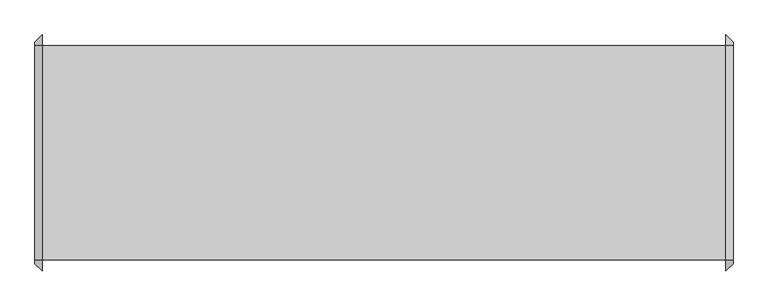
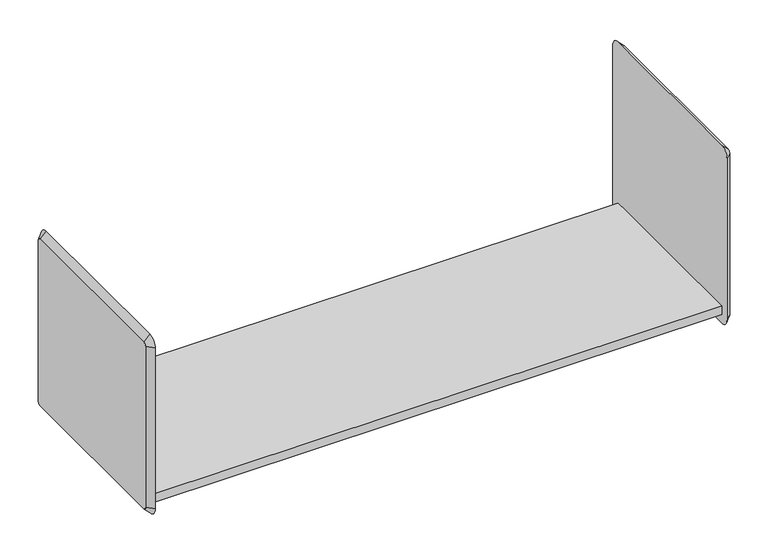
"""IFC4 building model written with IfcOpenShell, lengths in millimetres: furniture geometry, HermanMiller_ActionOffice_A3210_B-StyleShelf : 15-1/2H 16D 48W."""

from ifc_helpers import new_model, si_unit, frame, origin, place, context, project, spatial, polyline, circle_curve, outline, extrude, source, transform, mapped, element, save
from ifc_brep_helpers import plane_surface, revolved_surface, advanced_brep


def furniture_d0a76615(model_context):
    return source(origin(), model_context, "Body", "SolidModel", [
        extrude(outline(polyline([(472.9579955, 200.025), (472.9579955, 196.85), (-720.8420045, 196.85), (-720.8420045, 200.025), (472.9579955, 200.025)])), frame((0.0, 0.0, 158.7152313), z_axis=(0.0, 0.0, 1.0), x_axis=(1.0, 0.0, 0.0)), (0.0, 0.0, 1.0), 15.9097687),
        extrude(outline(polyline([(-174.625, 177.8), (200.025, 177.8), (200.025, 174.625), (-171.45, 174.625), (-171.45, 158.7152313), (-174.625, 158.7152313), (-174.625, 177.8)])), frame((-720.8420045, 0.0, 0.0), z_axis=(1.0, 0.0, 0.0), x_axis=(0.0, 1.0, 0.0)), (0.0, 0.0, 1.0), 1193.8),
        advanced_brep(
        [(485.6579955, 200.025, 520.7), (485.6579955, -174.625, 520.7), (485.6579955, -180.975, 514.35), (485.6579955, -180.975, 158.75), (485.6579955, -174.625, 152.4), (485.6579955, 200.025, 152.4), (485.6579955, 206.375, 158.75), (485.6579955, 206.375, 514.35), (472.9579955, 200.025, 533.4), (472.9579955, 219.075, 514.35), (472.9579955, 219.075, 158.75), (472.9579955, 200.025, 139.7), (472.9579955, -174.625, 139.7), (472.9579955, -193.675, 158.75), (472.9579955, -193.675, 514.35), (472.9579955, -174.625, 533.4)],
        [
            (0, 1),
            (1, 2, circle_curve(frame((485.6579955, -174.625, 514.35), z_axis=(1.0, 0.0, 0.0), x_axis=(0.0, 0.0, 1.0)), 6.35)),
            (2, 3),
            (3, 4, circle_curve(frame((485.6579955, -174.625, 158.75), z_axis=(1.0, 0.0, 0.0), x_axis=(0.0, -1.0, 0.0)), 6.35)),
            (4, 5),
            (5, 6, circle_curve(frame((485.6579955, 200.025, 158.75), z_axis=(1.0, 0.0, 0.0), x_axis=(0.0, 0.0, -1.0)), 6.35)),
            (6, 7),
            (7, 0, circle_curve(frame((485.6579955, 200.025, 514.35), z_axis=(1.0, 0.0, 0.0), x_axis=(0.0, 1.0, 0.0)), 6.35)),
            (8, 9, circle_curve(frame((472.9579955, 200.025, 514.35), z_axis=(-1.0, 0.0, 0.0), x_axis=(0.0, 1.0, 0.0)), 19.05)),
            (9, 10),
            (10, 11, circle_curve(frame((472.9579955, 200.025, 158.75), z_axis=(-1.0, 0.0, 0.0), x_axis=(0.0, 0.0, -1.0)), 19.05)),
            (11, 12),
            (12, 13, circle_curve(frame((472.9579955, -174.625, 158.75), z_axis=(-1.0, 0.0, 0.0), x_axis=(0.0, -1.0, 0.0)), 19.05)),
            (13, 14),
            (14, 15, circle_curve(frame((472.9579955, -174.625, 514.35), z_axis=(-1.0, 0.0, 0.0), x_axis=(0.0, 0.0, 1.0)), 19.05)),
            (15, 8),
            (15, 1),
            (0, 8),
            (14, 2),
            (13, 3),
            (12, 4),
            (11, 5),
            (10, 6),
            (9, 7),
        ],
        [
            plane_surface(frame((485.6579955, 12.7, 336.55), z_axis=(1.0, 0.0, 0.0), x_axis=(0.0, -1.0, 0.0))),
            plane_surface(frame((472.9579955, 12.7, 336.55), z_axis=(-1.0, 0.0, 0.0), x_axis=(0.0, -1.0, 0.0))),
            plane_surface(frame((472.9579955, 12.7, 533.4), z_axis=(0.7071067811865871, 0.0, 0.707106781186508), x_axis=(0.0, -1.0, 0.0))),
            revolved_surface(polyline([(485.6579955, -174.625, 520.6999999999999), (472.9579955, -174.625, 533.4)]), (492.0079955, -174.625, 514.35), (-1.0, 0.0, 0.0)),
            plane_surface(frame((472.9579955, -193.675, 336.55), z_axis=(0.7071067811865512, -0.7071067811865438, 0.0), x_axis=(0.0, 0.0, -1.0))),
            revolved_surface(polyline([(485.6579955, -180.97499999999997, 158.75), (472.9579955, -193.675, 158.75)]), (492.0079955, -174.625, 158.75), (-1.0, 0.0, 0.0)),
            plane_surface(frame((472.9579955, 12.7, 139.7), z_axis=(0.7071067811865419, 0.0, -0.7071067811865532), x_axis=(0.0, 1.0, 0.0))),
            revolved_surface(polyline([(485.6579955, 200.025, 152.40000000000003), (472.9579955, 200.025, 139.7)]), (492.0079955, 200.025, 158.75), (-1.0, 0.0, 0.0)),
            plane_surface(frame((472.9579955, 219.075, 336.55), z_axis=(0.7071067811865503, 0.7071067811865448, 0.0), x_axis=(0.0, 0.0, 1.0))),
            revolved_surface(polyline([(485.6579955, 206.37499999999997, 514.35), (472.9579955, 219.075, 514.35)]), (492.0079955, 200.025, 514.35), (-1.0, 0.0, 0.0)),
        ],
        [
            (0, [[1, 2, 3, 4, 5, 6, 7, 8]]),
            (1, [[9, 10, 11, 12, 13, 14, 15, 16]]),
            (2, [[-16, 17, -1, 18]]),
            (3, [[-15, 19, -2, -17]]),
            (4, [[-14, 20, -3, -19]]),
            (5, [[-13, 21, -4, -20]]),
            (6, [[-12, 22, -5, -21]]),
            (7, [[-11, 23, -6, -22]]),
            (8, [[-10, 24, -7, -23]]),
            (9, [[-9, -18, -8, -24]]),
        ],
    ),
        advanced_brep(
        [(-733.5420045, -174.625, 520.7), (-733.5420045, 200.025, 520.7), (-733.5420045, 206.375, 514.35), (-733.5420045, 206.375, 158.75), (-733.5420045, 200.025, 152.4), (-733.5420045, -174.625, 152.4), (-733.5420045, -180.975, 158.75), (-733.5420045, -180.975, 514.35), (-720.8420045, -174.625, 533.4), (-720.8420045, -193.675, 514.35), (-720.8420045, -193.675, 158.75), (-720.8420045, -174.625, 139.7), (-720.8420045, 200.025, 139.7), (-720.8420045, 219.075, 158.75), (-720.8420045, 219.075, 514.35), (-720.8420045, 200.025, 533.4)],
        [
            (0, 1),
            (1, 2, circle_curve(frame((-733.5420045, 200.025, 514.35), z_axis=(-1.0, -1.881161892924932e-12, -1.801225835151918e-12), x_axis=(-1.8012100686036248e-12, 0.0, 1.0)), 6.35)),
            (2, 3),
            (3, 4, circle_curve(frame((-733.5420045, 200.025, 158.75), z_axis=(-1.0, 0.0, 0.0), x_axis=(0.0, 1.0, 0.0)), 6.35)),
            (4, 5),
            (5, 6, circle_curve(frame((-733.5420045, -174.625, 158.75), z_axis=(-1.0, 0.0, 0.0), x_axis=(0.0, 0.0, -1.0)), 6.35)),
            (6, 7),
            (7, 0, circle_curve(frame((-733.5420045, -174.625, 514.35), z_axis=(-1.0, -1.875832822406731e-12, 1.971756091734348e-12), x_axis=(1.875789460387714e-12, -1.0, 0.0)), 6.35)),
            (8, 9, circle_curve(frame((-720.8420045, -174.625, 514.35), z_axis=(1.0, 1.875832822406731e-12, -1.971756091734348e-12), x_axis=(1.875789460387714e-12, -1.0, 0.0)), 19.05)),
            (9, 10),
            (10, 11, circle_curve(frame((-720.8420045, -174.625, 158.75), z_axis=(1.0, 0.0, 0.0), x_axis=(0.0, 0.0, -1.0)), 19.05)),
            (11, 12),
            (12, 13, circle_curve(frame((-720.8420045, 200.025, 158.75), z_axis=(1.0, 0.0, 0.0), x_axis=(0.0, 1.0, 0.0)), 19.05)),
            (13, 14),
            (14, 15, circle_curve(frame((-720.8420045, 200.025, 514.35), z_axis=(1.0, 1.881161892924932e-12, 1.801225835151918e-12), x_axis=(-1.8012100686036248e-12, 0.0, 1.0)), 19.05)),
            (15, 8),
            (15, 1),
            (0, 8),
            (14, 2),
            (13, 3),
            (12, 4),
            (11, 5),
            (10, 6),
            (9, 7),
        ],
        [
            plane_surface(frame((-733.5420045, 12.7, 336.55), z_axis=(-1.0, 0.0, 0.0), x_axis=(0.0, -1.0, 0.0))),
            plane_surface(frame((-720.8420045, 12.7, 336.55), z_axis=(1.0, 0.0, 0.0), x_axis=(0.0, -1.0, 0.0))),
            plane_surface(frame((-720.8420045, 12.7, 533.4), z_axis=(-0.7071067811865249, 0.0, 0.7071067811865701), x_axis=(0.0, 1.0, 0.0))),
            revolved_surface(polyline([(-733.5420045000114, 200.025, 520.6999999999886), (-720.8420044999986, 200.025, 533.4000000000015)]), (-739.8920045, 200.025, 514.35), (1.0, 1.881161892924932e-12, 1.801225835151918e-12)),
            plane_surface(frame((-720.8420045, 219.075, 336.55), z_axis=(-0.7071067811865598, 0.7071067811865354, 0.0), x_axis=(0.0, 0.0, -1.0))),
            revolved_surface(polyline([(-733.5420045, 206.37500000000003, 158.75), (-720.8420045, 219.075, 158.75)]), (-739.8920045, 200.025, 158.75), (1.0, 0.0, 0.0)),
            plane_surface(frame((-720.8420045, 12.7, 139.7), z_axis=(-0.7071067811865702, 0.0, -0.7071067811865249), x_axis=(0.0, -1.0, 0.0))),
            revolved_surface(polyline([(-733.5420045, -174.625, 152.39999999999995), (-720.8420045, -174.625, 139.7)]), (-739.8920045, -174.625, 158.75), (1.0, 0.0, 0.0)),
            plane_surface(frame((-720.8420045, -193.675, 336.55), z_axis=(-0.7071067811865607, -0.7071067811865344, 0.0), x_axis=(0.0, 0.0, 1.0))),
            revolved_surface(polyline([(-733.5420045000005, -180.97499999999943, 514.35), (-720.8420044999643, -193.67500000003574, 514.35)]), (-739.8920045, -174.625, 514.35), (1.0, 1.875832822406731e-12, -1.971756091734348e-12)),
        ],
        [
            (0, [[1, 2, 3, 4, 5, 6, 7, 8]]),
            (1, [[9, 10, 11, 12, 13, 14, 15, 16]]),
            (2, [[-16, 17, -1, 18]]),
            (3, [[-15, 19, -2, -17]]),
            (4, [[-14, 20, -3, -19]]),
            (5, [[-13, 21, -4, -20]]),
            (6, [[-12, 22, -5, -21]]),
            (7, [[-11, 23, -6, -22]]),
            (8, [[-10, 24, -7, -23]]),
            (9, [[-9, -18, -8, -24]]),
        ],
    ),
    ])


if __name__ == "__main__":
    model = new_model("IFC4")
    model_context = context("Model", 3, world=origin())
    ifc_project = project(units=[si_unit("LENGTHUNIT", "METRE", prefix="MILLI")], contexts=[model_context])
    site = spatial("IfcSite", under=ifc_project)
    building = spatial("IfcBuilding", under=site)
    placement = place(None, origin())
    furniture_shape = furniture_d0a76615(model_context)
    element("IfcFurniture", 1, ObjectType="HermanMiller_ActionOffice_A3210_B-StyleShelf : 15-1/2H 16D 48W", at=placement, inside=building, context=model_context, shape_type="MappedRepresentation", body=[
        mapped(furniture_shape, transform((0.0, 0.0, 0.0), x_axis=(1.0, 0.0, 0.0), y_axis=(0.0, 1.0, 0.0), z_axis=(0.0, 0.0, 1.0))),
    ])
    save(model, "model.ifc")
